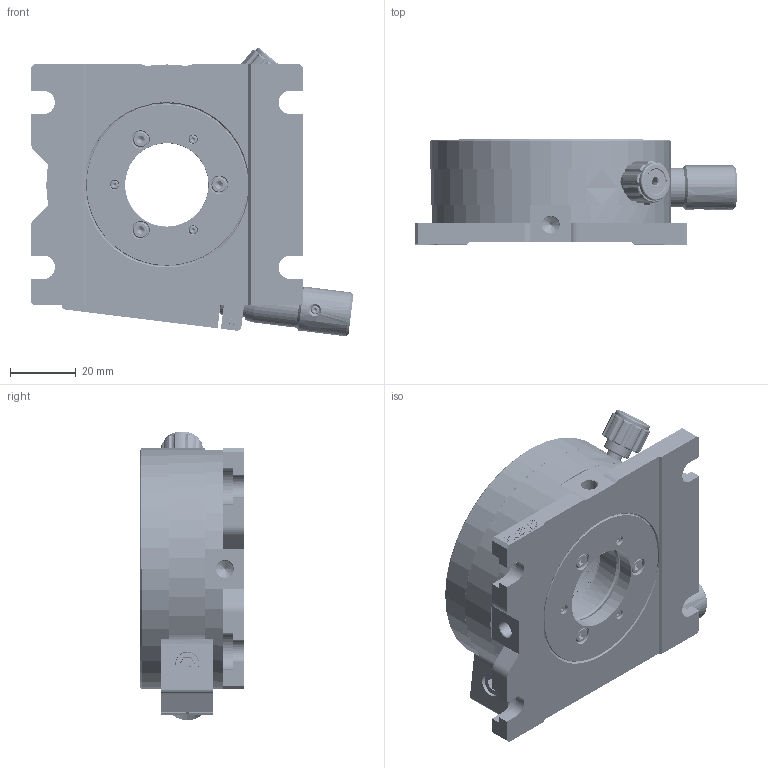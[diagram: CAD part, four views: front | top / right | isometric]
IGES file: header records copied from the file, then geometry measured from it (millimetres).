
Start section: SolidWorks IGES file using analytic representation for surfaces
Bounding box: 97.85 x 31.76 x 87.53 mm (x, y, z)
Surface area: 59740.7 mm2 (no closed solid volume)
Topology: 0 solids, 0 shells, 1740 faces, 41294 edges, 41238 vertices
Faces by surface type: revolution 901, bspline 839
